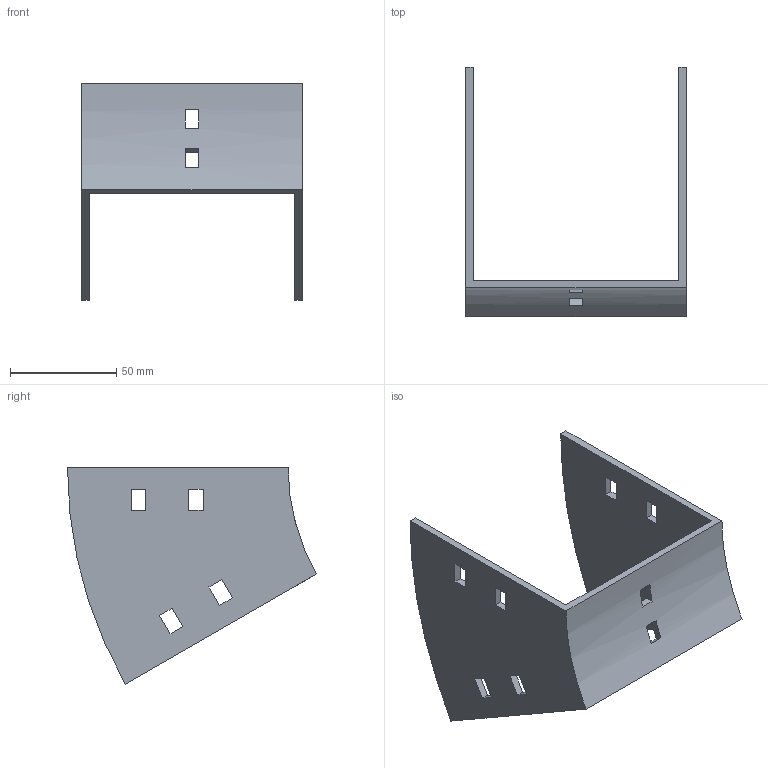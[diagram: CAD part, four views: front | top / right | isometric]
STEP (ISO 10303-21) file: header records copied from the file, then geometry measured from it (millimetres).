
FILE_DESCRIPTION (( 'STEP AP214' ), '1' );
FILE_NAME ('35B1D100.step', '2025-02-21T09:24:19', ( '' ), ( '' ), 'SwSTEP 2.0', 'SolidWorks 2023', '' );
FILE_SCHEMA (( 'AUTOMOTIVE_DESIGN' ));
Length unit declared in the file: millimetre
Products named in the file (1): 35B1D100
Bounding box: 104 x 117.4 x 102 mm (x, y, z)
Volume: 73651.5 mm3; surface area: 46134.9 mm2
Topology: 1 solids, 1 shells, 50 faces, 144 edges, 96 vertices
Faces by surface type: plane 46, cylinder 4
Entity records: 1687 total; most frequent: CARTESIAN_POINT 291, ORIENTED_EDGE 288, DIRECTION 262, EDGE_CURVE 144, VECTOR 128, LINE 128, VERTEX_POINT 96, EDGE_LOOP 70
